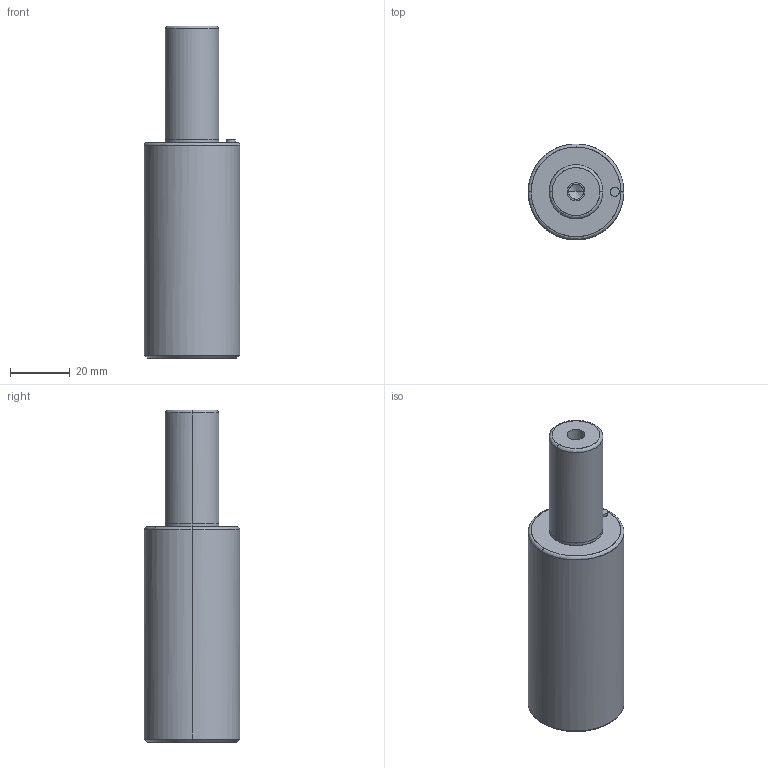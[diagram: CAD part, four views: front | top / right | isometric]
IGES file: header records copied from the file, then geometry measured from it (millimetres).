
Global section: file name: E:\UnigraphicsGraphicData\MISUMI_PRESS-PARTS\IGES\3d_gsc32-38_03844_r00.igs; native system: NX V5.0; preprocessor: UGS NX IGES V5.0; author: MISUMI; date: 20110105.160745; units: millimetre
Bounding box: 32 x 31.95 x 111 mm (x, y, z)
Surface area: 11334.9 mm2 (no closed solid volume)
Topology: 0 solids, 0 shells, 32 faces, 216 edges, 212 vertices
Faces by surface type: bspline 32
